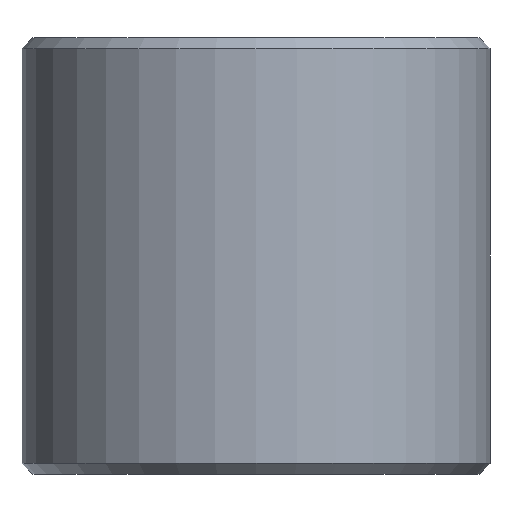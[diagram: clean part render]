
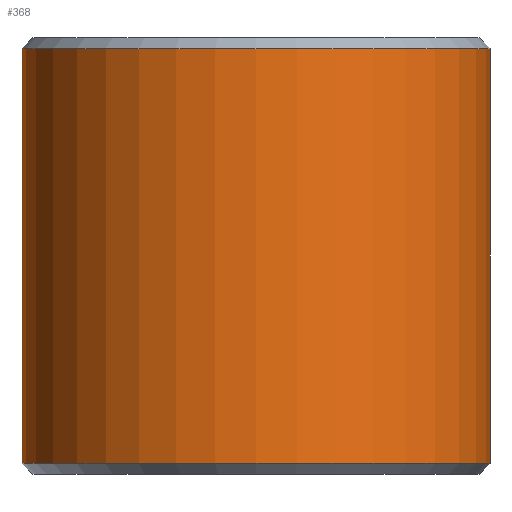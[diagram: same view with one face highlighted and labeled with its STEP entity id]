
A CAD part, front view. The second image highlights one B-rep face of the part: STEP entity #368.
In plain terms, the highlighted cylindrical face has radius 15 mm (diameter 30 mm), a partial arc.
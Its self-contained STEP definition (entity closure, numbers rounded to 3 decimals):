
#13 = CARTESIAN_POINT ( 'NONE',  ( 0., 0., 14. ) ) ;
#29 = VERTEX_POINT ( 'NONE', #305 ) ;
#36 = EDGE_CURVE ( 'NONE', #338, #29, #57, .T. ) ;
#57 = LINE ( 'NONE', #196, #380 ) ;
#84 = DIRECTION ( 'NONE',  ( 1., 0., 0. ) ) ;
#92 = CARTESIAN_POINT ( 'NONE',  ( -15., 0., 14. ) ) ;
#94 = EDGE_CURVE ( 'NONE', #306, #407, #398, .T. ) ;
#114 = CARTESIAN_POINT ( 'NONE',  ( 0., 0., 13.3 ) ) ;
#116 = CARTESIAN_POINT ( 'NONE',  ( -15., 0., 13.3 ) ) ;
#128 = CIRCLE ( 'NONE', #333, 15. ) ;
#134 = EDGE_CURVE ( 'NONE', #338, #306, #128, .T. ) ;
#142 = DIRECTION ( 'NONE',  ( 0., 0., 1. ) ) ;
#165 = DIRECTION ( 'NONE',  ( 0., 0., -1. ) ) ;
#169 = ORIENTED_EDGE ( 'NONE', *, *, #94, .T. ) ;
#174 = ORIENTED_EDGE ( 'NONE', *, *, #36, .F. ) ;
#176 = DIRECTION ( 'NONE',  ( 0., 0., -1. ) ) ;
#196 = CARTESIAN_POINT ( 'NONE',  ( 15., 0., 14. ) ) ;
#206 = DIRECTION ( 'NONE',  ( 1., 0., 0. ) ) ;
#214 = CARTESIAN_POINT ( 'NONE',  ( -15., 0., -13.3 ) ) ;
#216 = DIRECTION ( 'NONE',  ( 0., 0., -1. ) ) ;
#230 = EDGE_LOOP ( 'NONE', ( #174, #442, #169, #269 ) ) ;
#255 = CARTESIAN_POINT ( 'NONE',  ( 15., 0., 13.3 ) ) ;
#269 = ORIENTED_EDGE ( 'NONE', *, *, #310, .T. ) ;
#305 = CARTESIAN_POINT ( 'NONE',  ( 15., 0., -13.3 ) ) ;
#306 = VERTEX_POINT ( 'NONE', #116 ) ;
#310 = EDGE_CURVE ( 'NONE', #407, #29, #426, .T. ) ;
#322 = CYLINDRICAL_SURFACE ( 'NONE', #360, 15. ) ;
#324 = FACE_OUTER_BOUND ( 'NONE', #230, .T. ) ;
#332 = VECTOR ( 'NONE', #165, 1000. ) ;
#333 = AXIS2_PLACEMENT_3D ( 'NONE', #114, #176, #206 ) ;
#338 = VERTEX_POINT ( 'NONE', #255 ) ;
#360 = AXIS2_PLACEMENT_3D ( 'NONE', #13, #216, #428 ) ;
#368 = ADVANCED_FACE ( 'NONE', ( #324 ), #322, .T. ) ;
#371 = DIRECTION ( 'NONE',  ( 0., 0., -1. ) ) ;
#374 = AXIS2_PLACEMENT_3D ( 'NONE', #383, #142, #84 ) ;
#380 = VECTOR ( 'NONE', #371, 1000. ) ;
#383 = CARTESIAN_POINT ( 'NONE',  ( 0., 0., -13.3 ) ) ;
#398 = LINE ( 'NONE', #92, #332 ) ;
#407 = VERTEX_POINT ( 'NONE', #214 ) ;
#426 = CIRCLE ( 'NONE', #374, 15. ) ;
#428 = DIRECTION ( 'NONE',  ( -1., 0., 0. ) ) ;
#442 = ORIENTED_EDGE ( 'NONE', *, *, #134, .T. ) ;
